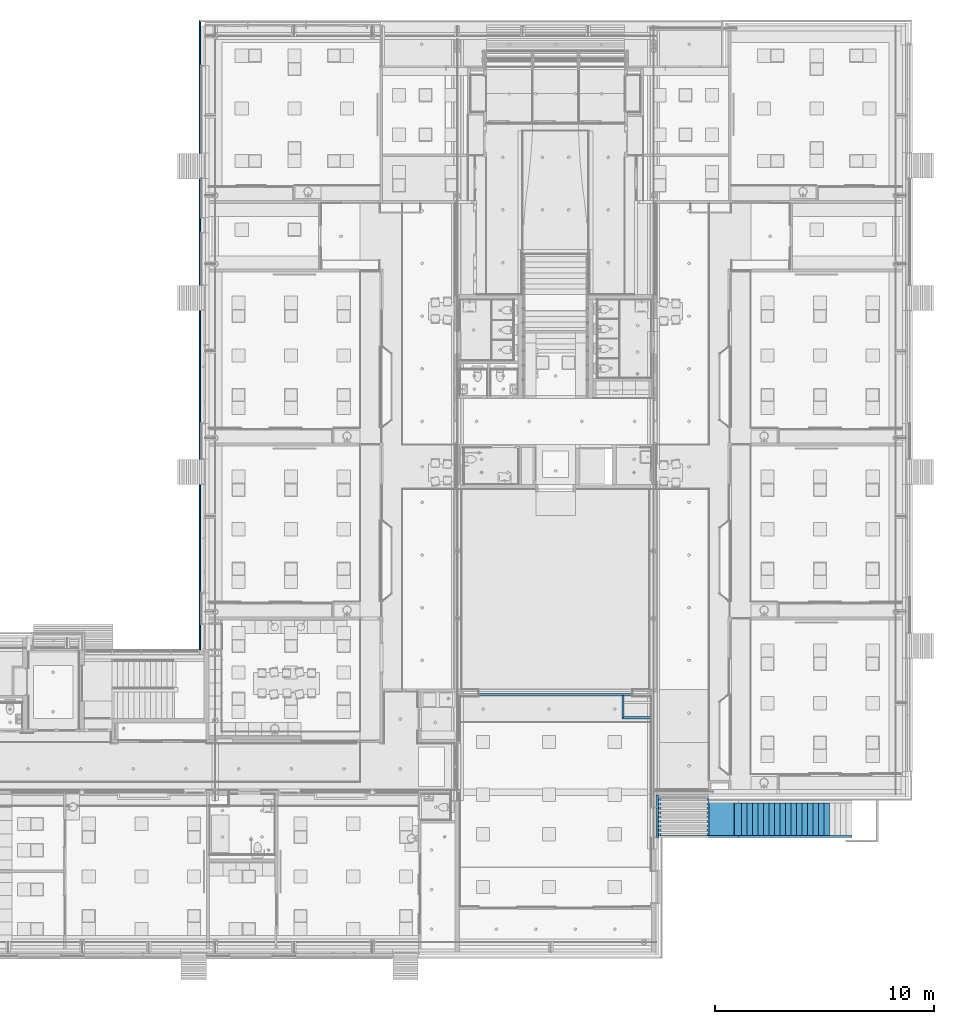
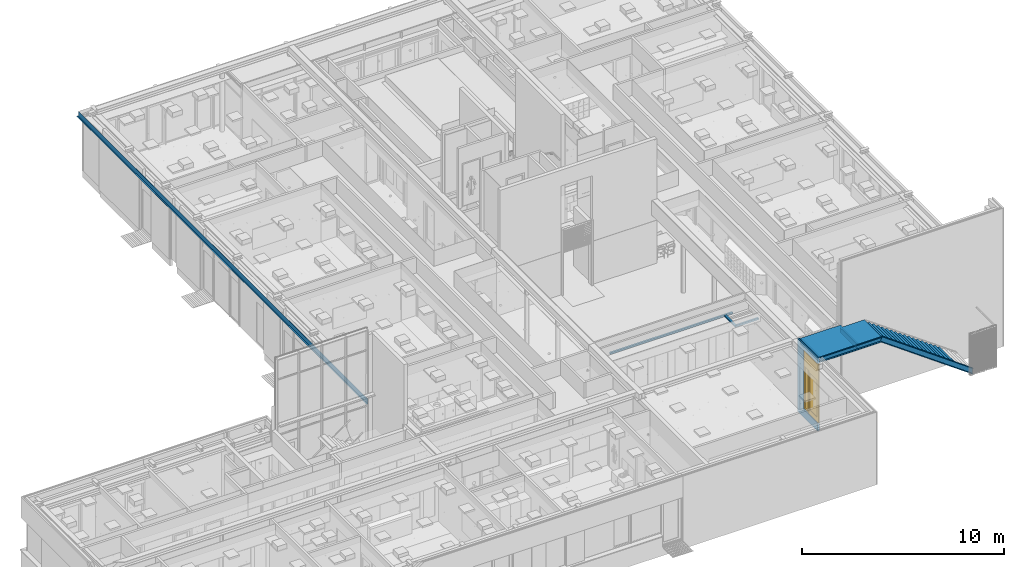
# One storey, part 28 of 347: 19 members, 8 beams, 1 door, 1 opening, 1 element without a shape of its own.
"""IFC2X3 building model written with IfcOpenShell, lengths in millimetres."""

from ifc_helpers import new_model, entity, si_unit, converted_unit, derived_unit, money_unit, direction, frame, origin_with_axes, place, context, subcontext, project, spatial, open_shell, faceted_brep, surface_model, material, type_object, element, fill, aggregate, save


model = new_model("IFC2X3")

# Units and contexts
model_context = context("Model", 3, precision=0.01, world=origin_with_axes(), true_north=direction((0.0, 1.0)))
plan_context = context("Plan", 3, precision=0.01, world=origin_with_axes(), true_north=direction((0.0, 1.0)))
body_context = subcontext(model_context, "Body", "Model", "MODEL_VIEW")
ifc_project = project(units=[si_unit("LENGTHUNIT", "METRE", prefix="MILLI"), si_unit("AREAUNIT", "SQUARE_METRE"), si_unit("VOLUMEUNIT", "CUBIC_METRE"), converted_unit("PLANEANGLEUNIT", "DEGREE", entity("IfcPlaneAngleMeasure", 0.0174532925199), si_unit("PLANEANGLEUNIT", "RADIAN"), dimensions=[0, 0, 0, 0, 0, 0, 0]), money_unit("EUR"), converted_unit("TIMEUNIT", "Year", entity("IfcTimeMeasure", 31556926.0), si_unit("TIMEUNIT", "SECOND"), dimensions=[0, 0, 1, 0, 0, 0, 0]), si_unit("MASSUNIT", "GRAM", prefix="KILO"), si_unit("THERMODYNAMICTEMPERATUREUNIT", "DEGREE_CELSIUS"), si_unit("LUMINOUSINTENSITYUNIT", "LUMEN"), si_unit("ENERGYUNIT", "JOULE", prefix="MEGA"), derived_unit("THERMALCONDUCTANCEUNIT", [(si_unit("POWERUNIT", "WATT"), 1), (si_unit("LENGTHUNIT", "METRE"), -1), (si_unit("THERMODYNAMICTEMPERATUREUNIT", "KELVIN"), -1)]), derived_unit("SPECIFICHEATCAPACITYUNIT", [(si_unit("ENERGYUNIT", "JOULE"), 1), (si_unit("MASSUNIT", "GRAM", prefix="KILO"), -1), (si_unit("THERMODYNAMICTEMPERATUREUNIT", "KELVIN"), -1)]), derived_unit("MASSDENSITYUNIT", [(si_unit("MASSUNIT", "GRAM", prefix="KILO"), 1), (si_unit("VOLUMEUNIT", "CUBIC_METRE"), -1)])], contexts=[model_context, plan_context])

# Site, building, storey
site_placement = place(None, origin_with_axes())
site = spatial("IfcSite", under=ifc_project, at=site_placement, Name="Site", CompositionType="ELEMENT")
building_placement = place(site_placement, origin_with_axes())
building = spatial("IfcBuilding", under=site, at=building_placement, Name="Naam gebouw", CompositionType="ELEMENT")
storey_placement = place(building_placement, origin_with_axes())
storey = spatial("IfcBuildingStorey", under=building, at=storey_placement, Name="begane grond", CompositionType="ELEMENT", Elevation=0.0)

# Beams
ifc_material_1 = material(Name="ALG - CONSTRUCTIEF")
beam_type_1 = type_object("IfcBeamType", Name="ALG - CONSTRUCTIEF 100 x 100", PredefinedType="BEAM")
beam_1_placement = place(storey_placement, frame((43145.0, 15525.0, 3100.0), z_axis=(0.0, 0.0, 1.0), x_axis=(0.0, -1.0, 0.0)))
element("IfcBeam", 1, at=beam_1_placement, inside=storey, type_object=beam_type_1, material=ifc_material_1, Name="28_Balk-x", ObjectType="BEAM", context=body_context, shape_type="Brep", body=[
    faceted_brep([(-50.0, 50.0, -100.0), (-50.0, 1300.0, -100.0), (50.0, 1300.0, -100.0), (50.0, -50.0, -100.0), (-50.0, 50.0, 0.0), (-50.0, 1300.0, 0.0), (50.0, 1300.0, 0.0), (50.0, -50.0, 0.0)], [[[0, 1, 2, 3]], [[4, 5, 1, 0]], [[2, 1, 5, 6]], [[3, 2, 6, 7]], [[4, 0, 3, 7]], [[7, 6, 5, 4]]]),
])
beam_2_placement = place(storey_placement, frame((43145.0, 15525.0, 3100.0), z_axis=(0.0, 0.0, 1.0), x_axis=(1.0, 0.0, 0.0)))
element("IfcBeam", 2, at=beam_2_placement, inside=storey, type_object=beam_type_1, material=ifc_material_1, Name="28_Balk-x", ObjectType="BEAM", context=body_context, shape_type="Brep", body=[
    faceted_brep([(50.0, 50.0, -100.0), (50.0, 1012.5, -100.0), (50.0, 1012.5, 0.0), (50.0, 50.0, 0.0), (-50.0, -50.0, -100.0), (-50.0, 1012.5, -100.0), (-50.0, 1012.5, 0.0), (-50.0, -50.0, 0.0)], [[[0, 1, 2, 3]], [[4, 5, 1, 0]], [[5, 6, 2, 1]], [[3, 2, 6, 7]], [[0, 3, 7, 4]], [[7, 6, 5, 4]]]),
])
beam_3_placement = place(storey_placement, frame((43575.0, 16587.5, 3100.0), z_axis=(0.0, 0.0, 1.0), x_axis=(0.0, 1.0, 0.0)))
element("IfcBeam", 3, at=beam_3_placement, inside=storey, type_object=beam_type_1, material=ifc_material_1, Name="28_Balk-x", ObjectType="BEAM", context=body_context, shape_type="Brep", body=[
    faceted_brep([(-50.0, 0.0, -100.0), (-50.0, 7000.0, -100.0), (50.0, 7000.0, -100.0), (50.0, 0.0, -100.0), (-50.0, 0.0, 0.0), (-50.0, 7000.0, 0.0), (50.0, 7000.0, 0.0), (50.0, 0.0, 0.0)], [[[0, 1, 2, 3]], [[4, 5, 1, 0]], [[2, 1, 5, 6]], [[3, 2, 6, 7]], [[4, 0, 3, 7]], [[7, 6, 5, 4]]]),
])
ifc_material_2 = material(Name="Metaal - Staal C beige")
beam_type_2 = type_object("IfcBeamType", Name="21 geveldrager (3200+) 75 x 300", PredefinedType="LINTEL")
beam_4_placement = place(storey_placement, frame((24275.0, 46887.0, 0.0), z_axis=(0.0, 0.0, 1.0), x_axis=(-1.0, 0.0, 0.0)))
element("IfcBeam", 4, at=beam_4_placement, inside=storey, type_object=beam_type_2, material=ifc_material_2, Name="21_21 geveldrager", ObjectType="LINTEL", context=body_context, shape_type="Brep", body=[
    faceted_brep([(430.000000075, -430.000000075, 3204.99999881), (430.000000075, 28292.0, 3204.99999881), (360.0, 28292.0, 3204.99999881), (360.0, -360.0, 3204.99999881), (430.000000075, -430.000000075, 3200.0), (430.000000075, 28292.0, 3200.0), (354.999996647, 28292.0, 3200.0), (354.999996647, 28292.0, 3500.00000119), (360.0, 28292.0, 3500.00000119), (360.0, -360.0, 3500.00000119), (354.999996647, -354.999996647, 3500.00000119), (354.999996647, -354.999996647, 3200.0)], [[[0, 1, 2, 3]], [[4, 5, 1, 0]], [[2, 1, 5, 6, 7, 8]], [[3, 2, 8, 9]], [[4, 0, 3, 9, 10, 11]], [[11, 6, 5, 4]], [[10, 7, 6, 11]], [[9, 8, 7, 10]]]),
])

# Member, opening, door
ifc_material_3 = material(Name="31 pui/kozijn")
member_type_1 = type_object("IfcMemberType", Name="31 pui/kozijn 112", PredefinedType="MEMBER")
member_1_placement = place(storey_placement, frame((44654.9999635, 12000.0000337, -510.000001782), z_axis=(0.0, 0.0, 1.0), x_axis=(4.05061524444e-07, -1.0, 0.0)))
member_1 = element("IfcMember", 5, at=member_1_placement, inside=storey, type_object=member_type_1, material=ifc_material_3, Name="21_31 buitenkozijn pui", ObjectType="MEMBER", context=body_context, shape_type="Brep", body=[
    faceted_brep([(942.000033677, 112.0, 470.000001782), (1950.00003368, 112.0, 470.000001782), (1950.00003368, 112.0, 0.0), (4.53668906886e-05, 112.0, 0.0), (4.53668906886e-05, 112.0, 4400.00000178), (1950.00003368, 112.0, 4400.00000178), (1950.00003368, 112.0, 4060.00000178), (550.000033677, 112.0, 4060.00000178), (550.000033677, 112.0, 487.000001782), (942.000033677, 112.0, 487.000001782), (942.000033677, 0.0, 470.000001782), (1950.00003368, 0.0, 470.000001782), (1950.00003368, 0.0, 0.0), (0.0, 0.0, 0.0), (0.0, 0.0, 4400.00000178), (1950.00003368, 0.0, 4400.00000178), (1950.00003368, 0.0, 4060.00000178), (550.000033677, 0.0, 4060.00000178), (550.000033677, 0.0, 487.000001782), (942.000033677, 0.0, 487.000001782)], [[[0, 1, 2, 3, 4, 5, 6, 7, 8, 9]], [[1, 0, 10, 11]], [[1, 11, 12, 2]], [[2, 12, 13, 3]], [[3, 13, 14, 4]], [[15, 5, 4, 14]], [[16, 6, 5, 15]], [[7, 6, 16, 17]], [[8, 7, 17, 18]], [[9, 8, 18, 19]], [[0, 9, 19, 10]], [[17, 16, 15, 14, 13, 12, 11, 10, 19, 18]]]),
])
opening_placement = place(member_1_placement, frame((1250.00003368, 0.0, 470.000001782), z_axis=(0.0, 0.0, 1.0), x_axis=(1.0, 0.0, 0.0)))
opening = element("IfcOpeningElement", 6, at=opening_placement, cuts=member_1, Name="32_merk-AT", context=body_context, shape_type="Brep", body=[
    faceted_brep([(-700.0, -112.0, 16.9999783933), (-700.0, -112.0, 3590.0), (-700.0, 234.0, 3590.0), (-700.0, 234.0, 16.9999783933), (-307.99997586, -112.0, 16.9999783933), (-307.99997586, -112.0, 0.0), (700.000017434, -112.0, 0.0), (700.000017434, -112.0, 3590.0), (700.000017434, 234.0, 3590.0), (700.000017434, 234.0, 0.0), (-307.99997586, 234.0, 0.0), (-307.99997586, 234.0, 16.9999783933)], [[[0, 1, 2, 3]], [[0, 4, 5, 6, 7, 1]], [[1, 7, 8, 2]], [[3, 2, 8, 9, 10, 11]], [[4, 0, 3, 11]], [[5, 4, 11, 10]], [[6, 5, 10, 9]], [[7, 6, 9, 8]]]),
])
door_style = type_object("IfcDoorStyle", Name="D1 bl zl1-b 25", ConstructionType="NOTDEFINED", OperationType="SINGLE_SWING_RIGHT", ParameterTakesPrecedence=False, Sizeable=False)
door_placement = place(opening_placement, frame((-700.0, 0.0, 0.0), z_axis=(0.0, 0.0, 1.0), x_axis=(1.0, 0.0, 0.0)))
door = element("IfcDoor", 7, at=door_placement, inside=storey, type_object=door_style, Name="32_merk-AT", ObjectType="DOOR", OverallHeight=3590.0, OverallWidth=1400.0, context=body_context, shape_type="SurfaceModel", body=[
    faceted_brep([(431.0, 60.0, 48.0), (446.0, 60.0, 48.0), (446.0, 50.0, 48.0), (1346.0, 50.0, 48.0), (1346.0, 60.0, 48.0), (1361.0, 60.0, 48.0), (1361.0, 122.0, 48.0), (431.0, 122.0, 48.0), (431.0, 60.0, 0.0), (446.0, 60.0, 0.0), (446.0, 50.0, 0.0), (1346.0, 50.0, 0.0), (1346.0, 60.0, 0.0), (1361.0, 60.0, 0.0), (1361.0, 122.0, 0.0), (431.0, 122.0, 0.0)], [[[0, 1, 2, 3, 4, 5, 6, 7]], [[1, 0, 8, 9]], [[10, 2, 1, 9]], [[2, 10, 11, 3]], [[3, 11, 12, 4]], [[5, 4, 12, 13]], [[13, 14, 6, 5]], [[15, 7, 6, 14]], [[8, 0, 7, 15]], [[9, 8, 15, 14, 13, 12, 11, 10]]]),
    faceted_brep([(0.0, 122.0, 17.0), (54.0, 122.0, 17.0), (54.0, 50.0, 17.0), (0.0, 50.0, 17.0), (0.0, 122.0, 3536.0), (54.0, 122.0, 3536.0), (54.0, 122.0, 2640.0), (54.0, 122.0, 2586.0), (54.0, 122.0, 71.0), (54.0, 50.0, 71.0), (54.0, 50.0, 2586.0), (54.0, 50.0, 2640.0), (54.0, 50.0, 3536.0), (0.0, 50.0, 3536.0)], [[[0, 1, 2, 3]], [[0, 4, 5, 6, 7, 8, 1]], [[1, 8, 9, 2]], [[3, 2, 9, 10, 11, 12, 13]], [[4, 0, 3, 13]], [[5, 4, 13, 12]], [[6, 5, 12, 11]], [[7, 6, 11, 10]], [[8, 7, 10, 9]]]),
    faceted_brep([(446.0, 60.0, 0.0), (446.0, 60.0, 2586.0), (446.0, 50.0, 2586.0), (446.0, 50.0, 0.0), (431.0, 60.0, 2586.0), (431.0, 60.0, 0.0), (431.0, 122.0, 2586.0), (392.0, 122.0, 2586.0), (392.0, 50.0, 2586.0), (392.0, 50.0, 0.0), (392.0, 50.0, 71.0), (392.0, 50.0, 17.0), (392.0, 122.0, 0.0), (431.0, 122.0, 0.0), (392.0, 122.0, 17.0), (392.0, 122.0, 71.0)], [[[0, 1, 2, 3]], [[4, 1, 0, 5]], [[4, 6, 7, 8, 2, 1]], [[9, 3, 2, 8, 10, 11]], [[5, 0, 3, 9, 12, 13]], [[6, 4, 5, 13]], [[6, 13, 12, 14, 15, 7]], [[15, 10, 8, 7]], [[14, 11, 10, 15]], [[12, 9, 11, 14]]]),
    faceted_brep([(54.0, 122.0, 71.0), (54.0, 122.0, 17.0), (54.0, 50.0, 17.0), (54.0, 50.0, 71.0), (392.0, 122.0, 71.0), (392.0, 122.0, 17.0), (392.0, 50.0, 17.0), (392.0, 50.0, 71.0)], [[[0, 1, 2, 3]], [[0, 4, 5, 1]], [[1, 5, 6, 2]], [[3, 2, 6, 7]], [[4, 0, 3, 7]], [[5, 4, 7, 6]]]),
    faceted_brep([(1361.0, 122.0, 2601.0), (1346.0, 122.0, 2601.0), (1346.0, 122.0, 2640.0), (1346.0, 122.0, 3536.0), (1400.0, 122.0, 3536.0), (1400.0, 122.0, 0.0), (1361.0, 122.0, 0.0), (1361.0, 60.0, 2601.0), (1346.0, 60.0, 2601.0), (1346.0, 60.0, 0.0), (1346.0, 50.0, 0.0), (1346.0, 50.0, 2586.0), (1346.0, 50.0, 2640.0), (1346.0, 50.0, 3536.0), (1400.0, 50.0, 3536.0), (1400.0, 50.0, 0.0), (1361.0, 60.0, 0.0)], [[[0, 1, 2, 3, 4, 5, 6]], [[1, 0, 7, 8]], [[8, 9, 10, 11, 12, 2, 1]], [[2, 12, 13, 3]], [[3, 13, 14, 4]], [[4, 14, 15, 5]], [[16, 6, 5, 15, 10, 9]], [[0, 6, 16, 7]], [[16, 9, 8, 7]], [[12, 11, 10, 15, 14, 13]]]),
    faceted_brep([(0.0, 122.0, 3590.0), (0.0, 122.0, 3536.0), (0.0, 50.0, 3536.0), (0.0, 50.0, 3590.0), (1400.0, 122.0, 3590.0), (1400.0, 122.0, 3536.0), (1346.0, 122.0, 3536.0), (54.0, 122.0, 3536.0), (54.0, 50.0, 3536.0), (1346.0, 50.0, 3536.0), (1400.0, 50.0, 3536.0), (1400.0, 50.0, 3590.0)], [[[0, 1, 2, 3]], [[0, 4, 5, 6, 7, 1]], [[1, 7, 8, 2]], [[3, 2, 8, 9, 10, 11]], [[4, 0, 3, 11]], [[5, 4, 11, 10]], [[6, 5, 10, 9]], [[7, 6, 9, 8]]]),
    faceted_brep([(1346.0, 60.0, 2601.0), (1346.0, 122.0, 2601.0), (1346.0, 122.0, 2640.0), (1346.0, 50.0, 2640.0), (1346.0, 50.0, 2586.0), (1346.0, 60.0, 2586.0), (431.0, 60.0, 2601.0), (431.0, 122.0, 2601.0), (431.0, 122.0, 2586.0), (392.0, 122.0, 2586.0), (54.0, 122.0, 2586.0), (54.0, 122.0, 2640.0), (54.0, 50.0, 2640.0), (446.0, 50.0, 2586.0), (54.0, 50.0, 2586.0), (392.0, 50.0, 2586.0), (446.0, 60.0, 2586.0), (431.0, 60.0, 2586.0)], [[[0, 1, 2, 3, 4, 5]], [[1, 0, 6, 7]], [[7, 8, 9, 10, 11, 2, 1]], [[11, 12, 3, 2]], [[13, 4, 3, 12, 14, 15]], [[16, 5, 4, 13]], [[0, 5, 16, 17, 6]], [[8, 7, 6, 17]], [[17, 16, 13, 15, 9, 8]], [[9, 15, 14, 10]], [[10, 14, 12, 11]]]),
    faceted_brep([(1361.0, 122.0, 248.0), (1361.0, 60.0, 248.0), (1261.0, 60.0, 248.0), (1261.0, 122.0, 248.0), (1361.0, 122.0, 2501.0), (1361.0, 60.0, 2501.0), (1261.0, 60.0, 2501.0), (1261.0, 122.0, 2501.0)], [[[0, 1, 2, 3]], [[4, 5, 1, 0]], [[1, 5, 6, 2]], [[3, 2, 6, 7]], [[0, 3, 7, 4]], [[7, 6, 5, 4]]]),
    faceted_brep([(431.0, 122.0, 248.0), (431.0, 60.0, 248.0), (431.0, 60.0, 2501.0), (431.0, 122.0, 2501.0), (531.0, 122.0, 248.0), (531.0, 60.0, 248.0), (531.0, 60.0, 2501.0), (531.0, 122.0, 2501.0)], [[[0, 1, 2, 3]], [[4, 5, 1, 0]], [[1, 5, 6, 2]], [[3, 2, 6, 7]], [[0, 3, 7, 4]], [[7, 6, 5, 4]]]),
    faceted_brep([(1361.0, 122.0, 48.0), (1361.0, 60.0, 48.0), (431.0, 60.0, 48.0), (431.0, 122.0, 48.0), (1361.0, 122.0, 248.0), (1361.0, 60.0, 248.0), (1261.0, 60.0, 248.0), (531.0, 60.0, 248.0), (431.0, 60.0, 248.0), (431.0, 122.0, 248.0), (531.0, 122.0, 248.0), (1261.0, 122.0, 248.0)], [[[0, 1, 2, 3]], [[4, 5, 1, 0]], [[1, 5, 6, 7, 8, 2]], [[3, 2, 8, 9]], [[0, 3, 9, 10, 11, 4]], [[11, 6, 5, 4]], [[10, 7, 6, 11]], [[9, 8, 7, 10]]]),
    faceted_brep([(1361.0, 122.0, 2601.0), (1361.0, 60.0, 2601.0), (1361.0, 60.0, 2501.0), (1361.0, 122.0, 2501.0), (431.0, 122.0, 2601.0), (431.0, 60.0, 2601.0), (431.0, 60.0, 2501.0), (531.0, 60.0, 2501.0), (1261.0, 60.0, 2501.0), (1261.0, 122.0, 2501.0), (531.0, 122.0, 2501.0), (431.0, 122.0, 2501.0)], [[[0, 1, 2, 3]], [[4, 5, 1, 0]], [[1, 5, 6, 7, 8, 2]], [[3, 2, 8, 9]], [[0, 3, 9, 10, 11, 4]], [[11, 6, 5, 4]], [[10, 7, 6, 11]], [[9, 8, 7, 10]]]),
    surface_model("IfcShellBasedSurfaceModel", [(1261.0, 97.0, 248.0), (531.0, 97.0, 248.0), (531.0, 97.0, 2501.0), (1261.0, 97.0, 2501.0)], [open_shell([[[0, 1, 2, 3]]])]),
    surface_model("IfcShellBasedSurfaceModel", [(1261.0, 85.0, 248.0), (1261.0, 85.0, 2501.0), (531.0, 85.0, 2501.0), (531.0, 85.0, 248.0)], [open_shell([[[0, 1, 2, 3]]])]),
    faceted_brep([(54.0, 104.0, 2640.0), (1346.0, 104.0, 2640.0), (1346.0, 50.0, 2640.0), (54.0, 50.0, 2640.0), (54.0, 104.0, 3536.0), (1346.0, 104.0, 3536.0), (1346.0, 50.0, 3536.0), (54.0, 50.0, 3536.0)], [[[0, 1, 2, 3]], [[0, 4, 5, 1]], [[1, 5, 6, 2]], [[3, 2, 6, 7]], [[4, 0, 3, 7]], [[5, 4, 7, 6]]]),
    surface_model("IfcShellBasedSurfaceModel", [(54.0, 118.0, 71.0), (54.0, 118.0, 2586.0), (392.0, 118.0, 2586.0), (392.0, 118.0, 71.0)], [open_shell([[[0, 1, 2, 3]]])]),
    surface_model("IfcShellBasedSurfaceModel", [(54.0, 106.0, 71.0), (392.0, 106.0, 71.0), (392.0, 106.0, 2586.0), (54.0, 106.0, 2586.0)], [open_shell([[[0, 1, 2, 3]]])]),
])
fill(opening, door)

# Stair, members
stair_placement = place(storey_placement, frame((53554.999908, 11649.9999578, -50.0), z_axis=(0.0, 0.0, 1.0), x_axis=(1.0, 0.0, 0.0)))
stair = element("IfcStair", 8, at=stair_placement, inside=storey, Name="24_Trap-x", ShapeType="NOTDEFINED")
ifc_material_4 = material(Name="Metaal - Staal C wit")
member_type_2 = type_object("IfcMemberType", Name="IfcMember", PredefinedType="USERDEFINED")
member_2_placement = place(stair_placement, frame((-1000.0, -580.0, 900.0), z_axis=(0.0, 0.0, 1.0), x_axis=(0.0, 1.0, 0.0)))
member_2 = element("IfcMember", 9, at=member_2_placement, type_object=member_type_2, material=ifc_material_4, Name="44_Traptrede-x", context=body_context, shape_type="Brep", body=[
    faceted_brep([(-909.999957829, 338.230854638, -45.0), (-164.999978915, 338.230854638, -45.0), (580.0, 338.230854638, -45.0), (580.0, 0.0, -45.0), (-909.999957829, 0.0, -45.0), (-909.999957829, 326.173140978, 0.0), (-164.999978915, 326.173140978, 0.0), (580.0, 326.173140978, 0.0), (580.0, 0.0, 0.0), (-909.999957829, 0.0, 0.0)], [[[0, 1, 2, 3, 4]], [[1, 0, 5, 6, 7, 2]], [[7, 8, 3, 2]], [[8, 9, 4, 3]], [[5, 0, 4, 9]], [[6, 5, 9, 8, 7]]]),
])
member_3_placement = place(stair_placement, frame((-1250.0, -580.0, 1080.0), z_axis=(0.0, 0.0, 1.0), x_axis=(0.0, 1.0, 0.0)))
member_3 = element("IfcMember", 10, at=member_3_placement, type_object=member_type_2, material=ifc_material_4, Name="44_Traptrede-x", context=body_context, shape_type="Brep", body=[
    faceted_brep([(-909.999957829, 338.230854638, -45.0), (-164.999978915, 338.230854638, -45.0), (580.0, 338.230854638, -45.0), (580.0, 0.0, -45.0), (-909.999957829, 0.0, -45.0), (-909.999957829, 326.173140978, 0.0), (-164.999978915, 326.173140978, 0.0), (580.0, 326.173140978, 0.0), (580.0, 0.0, 0.0), (-909.999957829, 0.0, 0.0)], [[[0, 1, 2, 3, 4]], [[1, 0, 5, 6, 7, 2]], [[7, 8, 3, 2]], [[8, 9, 4, 3]], [[5, 0, 4, 9]], [[6, 5, 9, 8, 7]]]),
])
member_4_placement = place(stair_placement, frame((-1500.0, -580.0, 1260.0), z_axis=(0.0, 0.0, 1.0), x_axis=(0.0, 1.0, 0.0)))
member_4 = element("IfcMember", 11, at=member_4_placement, type_object=member_type_2, material=ifc_material_4, Name="44_Traptrede-x", context=body_context, shape_type="Brep", body=[
    faceted_brep([(-909.999957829, 338.230854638, -45.0), (-164.999978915, 338.230854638, -45.0), (580.0, 338.230854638, -45.0), (580.0, 0.0, -45.0), (-909.999957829, 0.0, -45.0), (-909.999957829, 326.173140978, 0.0), (-164.999978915, 326.173140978, 0.0), (580.0, 326.173140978, 0.0), (580.0, 0.0, 0.0), (-909.999957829, 0.0, 0.0)], [[[0, 1, 2, 3, 4]], [[1, 0, 5, 6, 7, 2]], [[7, 8, 3, 2]], [[8, 9, 4, 3]], [[5, 0, 4, 9]], [[6, 5, 9, 8, 7]]]),
])
member_5_placement = place(stair_placement, frame((-1750.0, -580.0, 1440.0), z_axis=(0.0, 0.0, 1.0), x_axis=(0.0, 1.0, 0.0)))
member_5 = element("IfcMember", 12, at=member_5_placement, type_object=member_type_2, material=ifc_material_4, Name="44_Traptrede-x", context=body_context, shape_type="Brep", body=[
    faceted_brep([(-909.999957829, 338.230854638, -45.0), (-164.999978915, 338.230854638, -45.0), (580.0, 338.230854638, -45.0), (580.0, 0.0, -45.0), (-909.999957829, 0.0, -45.0), (-909.999957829, 326.173140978, 0.0), (-164.999978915, 326.173140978, 0.0), (580.0, 326.173140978, 0.0), (580.0, 0.0, 0.0), (-909.999957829, 0.0, 0.0)], [[[0, 1, 2, 3, 4]], [[1, 0, 5, 6, 7, 2]], [[7, 8, 3, 2]], [[8, 9, 4, 3]], [[5, 0, 4, 9]], [[6, 5, 9, 8, 7]]]),
])
member_6_placement = place(stair_placement, frame((-2000.0, -580.0, 1620.0), z_axis=(0.0, 0.0, 1.0), x_axis=(0.0, 1.0, 0.0)))
member_6 = element("IfcMember", 13, at=member_6_placement, type_object=member_type_2, material=ifc_material_4, Name="44_Traptrede-x", context=body_context, shape_type="Brep", body=[
    faceted_brep([(-909.999957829, 338.230854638, -45.0), (-164.999978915, 338.230854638, -45.0), (580.0, 338.230854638, -45.0), (580.0, 0.0, -45.0), (-909.999957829, 0.0, -45.0), (-909.999957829, 326.173140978, 0.0), (-164.999978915, 326.173140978, 0.0), (580.0, 326.173140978, 0.0), (580.0, 0.0, 0.0), (-909.999957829, 0.0, 0.0)], [[[0, 1, 2, 3, 4]], [[1, 0, 5, 6, 7, 2]], [[7, 8, 3, 2]], [[8, 9, 4, 3]], [[5, 0, 4, 9]], [[6, 5, 9, 8, 7]]]),
])
member_7_placement = place(stair_placement, frame((-2250.0, -580.0, 1800.0), z_axis=(0.0, 0.0, 1.0), x_axis=(0.0, 1.0, 0.0)))
member_7 = element("IfcMember", 14, at=member_7_placement, type_object=member_type_2, material=ifc_material_4, Name="44_Traptrede-x", context=body_context, shape_type="Brep", body=[
    faceted_brep([(-909.999957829, 338.230854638, -45.0), (-164.999978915, 338.230854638, -45.0), (580.0, 338.230854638, -45.0), (580.0, 0.0, -45.0), (-909.999957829, 0.0, -45.0), (-909.999957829, 326.173140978, 0.0), (-164.999978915, 326.173140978, 0.0), (580.0, 326.173140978, 0.0), (580.0, 0.0, 0.0), (-909.999957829, 0.0, 0.0)], [[[0, 1, 2, 3, 4]], [[1, 0, 5, 6, 7, 2]], [[7, 8, 3, 2]], [[8, 9, 4, 3]], [[5, 0, 4, 9]], [[6, 5, 9, 8, 7]]]),
])
member_8_placement = place(stair_placement, frame((-2500.0, -580.0, 1980.0), z_axis=(0.0, 0.0, 1.0), x_axis=(0.0, 1.0, 0.0)))
member_8 = element("IfcMember", 15, at=member_8_placement, type_object=member_type_2, material=ifc_material_4, Name="44_Traptrede-x", context=body_context, shape_type="Brep", body=[
    faceted_brep([(-909.999957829, 338.230854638, -45.0), (-164.999978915, 338.230854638, -45.0), (580.0, 338.230854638, -45.0), (580.0, 0.0, -45.0), (-909.999957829, 0.0, -45.0), (-909.999957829, 326.173140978, 0.0), (-164.999978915, 326.173140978, 0.0), (580.0, 326.173140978, 0.0), (580.0, 0.0, 0.0), (-909.999957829, 0.0, 0.0)], [[[0, 1, 2, 3, 4]], [[1, 0, 5, 6, 7, 2]], [[7, 8, 3, 2]], [[8, 9, 4, 3]], [[5, 0, 4, 9]], [[6, 5, 9, 8, 7]]]),
])
member_9_placement = place(stair_placement, frame((-2750.0, -580.0, 2160.0), z_axis=(0.0, 0.0, 1.0), x_axis=(0.0, 1.0, 0.0)))
member_9 = element("IfcMember", 16, at=member_9_placement, type_object=member_type_2, material=ifc_material_4, Name="44_Traptrede-x", context=body_context, shape_type="Brep", body=[
    faceted_brep([(-909.999957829, 338.230854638, -45.0), (-164.999978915, 338.230854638, -45.0), (580.0, 338.230854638, -45.0), (580.0, 0.0, -45.0), (-909.999957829, 0.0, -45.0), (-909.999957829, 326.173140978, 0.0), (-164.999978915, 326.173140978, 0.0), (580.0, 326.173140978, 0.0), (580.0, 0.0, 0.0), (-909.999957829, 0.0, 0.0)], [[[0, 1, 2, 3, 4]], [[1, 0, 5, 6, 7, 2]], [[7, 8, 3, 2]], [[8, 9, 4, 3]], [[5, 0, 4, 9]], [[6, 5, 9, 8, 7]]]),
])
member_10_placement = place(stair_placement, frame((-3000.0, -580.0, 2340.0), z_axis=(0.0, 0.0, 1.0), x_axis=(0.0, 1.0, 0.0)))
member_10 = element("IfcMember", 17, at=member_10_placement, type_object=member_type_2, material=ifc_material_4, Name="44_Traptrede-x", context=body_context, shape_type="Brep", body=[
    faceted_brep([(-909.999957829, 338.230854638, -45.0), (-164.999978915, 338.230854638, -45.0), (580.0, 338.230854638, -45.0), (580.0, 0.0, -45.0), (-909.999957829, 0.0, -45.0), (-909.999957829, 326.173140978, 0.0), (-164.999978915, 326.173140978, 0.0), (580.0, 326.173140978, 0.0), (580.0, 0.0, 0.0), (-909.999957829, 0.0, 0.0)], [[[0, 1, 2, 3, 4]], [[1, 0, 5, 6, 7, 2]], [[7, 8, 3, 2]], [[8, 9, 4, 3]], [[5, 0, 4, 9]], [[6, 5, 9, 8, 7]]]),
])
member_11_placement = place(stair_placement, frame((-3250.0, -580.0, 2520.0), z_axis=(0.0, 0.0, 1.0), x_axis=(0.0, 1.0, 0.0)))
member_11 = element("IfcMember", 18, at=member_11_placement, type_object=member_type_2, material=ifc_material_4, Name="44_Traptrede-x", context=body_context, shape_type="Brep", body=[
    faceted_brep([(-909.999957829, 338.230854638, -45.0), (-164.999978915, 338.230854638, -45.0), (580.0, 338.230854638, -45.0), (580.0, 0.0, -45.0), (-909.999957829, 0.0, -45.0), (-909.999957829, 326.173140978, 0.0), (-164.999978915, 326.173140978, 0.0), (580.0, 326.173140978, 0.0), (580.0, 0.0, 0.0), (-909.999957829, 0.0, 0.0)], [[[0, 1, 2, 3, 4]], [[1, 0, 5, 6, 7, 2]], [[7, 8, 3, 2]], [[8, 9, 4, 3]], [[5, 0, 4, 9]], [[6, 5, 9, 8, 7]]]),
])
member_12_placement = place(stair_placement, frame((-3500.0, -580.0, 2700.0), z_axis=(0.0, 0.0, 1.0), x_axis=(0.0, 1.0, 0.0)))
member_12 = element("IfcMember", 19, at=member_12_placement, type_object=member_type_2, material=ifc_material_4, Name="44_Traptrede-x", context=body_context, shape_type="Brep", body=[
    faceted_brep([(-909.999957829, 338.230854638, -45.0), (-164.999978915, 338.230854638, -45.0), (580.0, 338.230854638, -45.0), (580.0, 0.0, -45.0), (-909.999957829, 0.0, -45.0), (-909.999957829, 326.173140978, 0.0), (-164.999978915, 326.173140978, 0.0), (580.0, 326.173140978, 0.0), (580.0, 0.0, 0.0), (-909.999957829, 0.0, 0.0)], [[[0, 1, 2, 3, 4]], [[1, 0, 5, 6, 7, 2]], [[7, 8, 3, 2]], [[8, 9, 4, 3]], [[5, 0, 4, 9]], [[6, 5, 9, 8, 7]]]),
])
member_13_placement = place(stair_placement, frame((-3750.0, -580.0, 2880.0), z_axis=(0.0, 0.0, 1.0), x_axis=(0.0, 1.0, 0.0)))
member_13 = element("IfcMember", 20, at=member_13_placement, type_object=member_type_2, material=ifc_material_4, Name="44_Traptrede-x", context=body_context, shape_type="Brep", body=[
    faceted_brep([(-909.999957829, 338.230854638, -45.0), (-164.999978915, 338.230854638, -45.0), (580.0, 338.230854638, -45.0), (580.0, 0.0, -45.0), (-909.999957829, 0.0, -45.0), (-909.999957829, 326.173140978, 0.0), (-164.999978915, 326.173140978, 0.0), (580.0, 326.173140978, 0.0), (580.0, 0.0, 0.0), (-909.999957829, 0.0, 0.0)], [[[0, 1, 2, 3, 4]], [[1, 0, 5, 6, 7, 2]], [[7, 8, 3, 2]], [[8, 9, 4, 3]], [[5, 0, 4, 9]], [[6, 5, 9, 8, 7]]]),
])
member_14_placement = place(stair_placement, frame((-4000.0, -580.0, 3060.0), z_axis=(0.0, 0.0, 1.0), x_axis=(0.0, 1.0, 0.0)))
member_14 = element("IfcMember", 21, at=member_14_placement, type_object=member_type_2, material=ifc_material_4, Name="44_Traptrede-x", context=body_context, shape_type="Brep", body=[
    faceted_brep([(-909.999957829, 338.230854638, -45.0), (-164.999978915, 338.230854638, -45.0), (580.0, 338.230854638, -45.0), (580.0, 0.0, -45.0), (-909.999957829, 0.0, -45.0), (-909.999957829, 326.173140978, 0.0), (-164.999978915, 326.173140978, 0.0), (580.0, 326.173140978, 0.0), (580.0, 0.0, 0.0), (-909.999957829, 0.0, 0.0)], [[[0, 1, 2, 3, 4]], [[1, 0, 5, 6, 7, 2]], [[7, 8, 3, 2]], [[8, 9, 4, 3]], [[5, 0, 4, 9]], [[6, 5, 9, 8, 7]]]),
])
member_15_placement = place(stair_placement, frame((-4250.0, -580.0, 3240.0), z_axis=(0.0, 0.0, 1.0), x_axis=(0.0, 1.0, 0.0)))
member_15 = element("IfcMember", 22, at=member_15_placement, type_object=member_type_2, material=ifc_material_4, Name="44_Traptrede-x", context=body_context, shape_type="Brep", body=[
    faceted_brep([(-909.999957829, 338.230854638, -45.0), (-164.999978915, 338.230854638, -45.0), (580.0, 338.230854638, -45.0), (580.0, 0.0, -45.0), (-909.999957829, 0.0, -45.0), (-909.999957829, 326.173140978, 0.0), (-164.999978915, 326.173140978, 0.0), (580.0, 326.173140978, 0.0), (580.0, 0.0, 0.0), (-909.999957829, 0.0, 0.0)], [[[0, 1, 2, 3, 4]], [[1, 0, 5, 6, 7, 2]], [[7, 8, 3, 2]], [[8, 9, 4, 3]], [[5, 0, 4, 9]], [[6, 5, 9, 8, 7]]]),
])
member_16_placement = place(stair_placement, frame((-4500.0, -580.0, 3420.0), z_axis=(0.0, 0.0, 1.0), x_axis=(0.0, 1.0, 0.0)))
member_16 = element("IfcMember", 23, at=member_16_placement, type_object=member_type_2, material=ifc_material_4, Name="44_Traptrede-x", context=body_context, shape_type="Brep", body=[
    faceted_brep([(-909.999957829, 338.230854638, -45.0), (-164.999978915, 338.230854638, -45.0), (580.0, 338.230854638, -45.0), (580.0, 0.0, -45.0), (-909.999957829, 0.0, -45.0), (-909.999957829, 326.173140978, 0.0), (-164.999978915, 326.173140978, 0.0), (580.0, 326.173140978, 0.0), (580.0, 0.0, 0.0), (-909.999957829, 0.0, 0.0)], [[[0, 1, 2, 3, 4]], [[1, 0, 5, 6, 7, 2]], [[7, 8, 3, 2]], [[8, 9, 4, 3]], [[5, 0, 4, 9]], [[6, 5, 9, 8, 7]]]),
])
member_17_placement = place(stair_placement, frame((-4750.0, -580.0, 3600.0), z_axis=(0.0, 0.0, 1.0), x_axis=(0.0, 1.0, 0.0)))
member_17 = element("IfcMember", 24, at=member_17_placement, type_object=member_type_2, material=ifc_material_4, Name="44_Traptrede-x", context=body_context, shape_type="Brep", body=[
    faceted_brep([(-909.999957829, 338.230854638, -45.0), (-164.999978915, 338.230854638, -45.0), (580.0, 338.230854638, -45.0), (580.0, 0.0, -45.0), (-909.999957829, 0.0, -45.0), (-909.999957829, 326.173140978, 0.0), (-164.999978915, 326.173140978, 0.0), (580.0, 326.173140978, 0.0), (580.0, 0.0, 0.0), (-909.999957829, 0.0, 0.0)], [[[0, 1, 2, 3, 4]], [[1, 0, 5, 6, 7, 2]], [[7, 8, 3, 2]], [[8, 9, 4, 3]], [[5, 0, 4, 9]], [[6, 5, 9, 8, 7]]]),
])
member_18_placement = place(stair_placement, frame((-5000.0, -580.0, 3780.0), z_axis=(0.0, 0.0, 1.0), x_axis=(0.0, 1.0, 0.0)))
member_18 = element("IfcMember", 25, at=member_18_placement, type_object=member_type_2, material=ifc_material_4, Name="44_Traptrede-x", context=body_context, shape_type="Brep", body=[
    faceted_brep([(-909.999957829, 338.230854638, -45.0), (-164.999978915, 338.230854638, -45.0), (580.0, 338.230854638, -45.0), (580.0, 0.0, -45.0), (-909.999957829, 0.0, -45.0), (-909.999957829, 326.173140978, 0.0), (-164.999978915, 326.173140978, 0.0), (580.0, 326.173140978, 0.0), (580.0, 0.0, 0.0), (-909.999957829, 0.0, 0.0)], [[[0, 1, 2, 3, 4]], [[1, 0, 5, 6, 7, 2]], [[7, 8, 3, 2]], [[8, 9, 4, 3]], [[5, 0, 4, 9]], [[6, 5, 9, 8, 7]]]),
])
member_19_placement = place(stair_placement, frame((-5250.0, -580.0, 3960.0), z_axis=(0.0, 0.0, 1.0), x_axis=(0.0, 1.0, 0.0)))
member_19 = element("IfcMember", 26, at=member_19_placement, type_object=member_type_2, material=ifc_material_4, Name="44_Traptrede-x", context=body_context, shape_type="Brep", body=[
    faceted_brep([(860.000088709, 3577.99919099, -45.0), (-1009.99995783, 3577.99919099, -45.0), (-1009.99995783, 3577.99919099, 0.0), (860.000088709, 3577.99919099, 0.0), (860.000088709, 1239.99989144, -45.0), (668.000024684, 1239.99989144, -45.0), (668.000024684, 0.0, -45.0), (-1009.99995783, 0.0, -45.0), (-1009.99995783, 0.0, 0.0), (668.000024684, 0.0, 0.0), (668.000024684, 1239.99989144, 0.0), (860.000088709, 1239.99989144, 0.0)], [[[0, 1, 2, 3]], [[0, 4, 5, 6, 7, 1]], [[1, 7, 8, 2]], [[3, 2, 8, 9, 10, 11]], [[4, 0, 3, 11]], [[5, 4, 11, 10]], [[6, 5, 10, 9]], [[7, 6, 9, 8]]]),
])
aggregate(stair, [member_2, member_3, member_4, member_5, member_6, member_7, member_8, member_9, member_10, member_11, member_12, member_13, member_14, member_15, member_16, member_17, member_18, member_19])

# Beams
ifc_material_5 = material(Name="Metaal - Staal C")
beam_type_3 = type_object("IfcBeamType", Name="UNP300 100 x 300", PredefinedType="BEAM")
beam_5_placement = place(storey_placement, frame((46965.0000101, 11930.0000337, 3860.0), z_axis=(0.0, 0.0, 1.0), x_axis=(-1.0, 0.0, 0.0)))
element("IfcBeam", 27, at=beam_5_placement, inside=storey, type_object=beam_type_3, material=ifc_material_5, Name="28_Balk-x", ObjectType="BEAM", context=body_context, shape_type="Brep", body=[
    faceted_brep([(0.0, 100.0, 0.0), (0.0, 1770.00003368, 0.0), (-100.0, 1770.00003368, 0.0), (-100.0, 0.0, 0.0), (0.0, 100.0, -300.0), (0.0, 1770.00003368, -300.0), (-10.0, 1770.00003368, -16.0), (-100.0, 1770.00003368, -16.0), (-100.0, 1770.00003368, -300.0), (-100.0, 1770.00003368, -284.0), (-10.0, 1770.00003368, -284.0), (-100.0, 0.0, -16.0), (-100.0, 0.0, -284.0), (-100.0, 0.0, -300.0), (-10.0, 90.0, -16.0), (-10.0, 90.0, -284.0)], [[[0, 1, 2, 3]], [[4, 5, 1, 0]], [[6, 7, 2, 1, 5, 8, 9, 10]], [[3, 2, 7, 11]], [[12, 13, 4, 0, 3, 11, 14, 15]], [[13, 8, 5, 4]], [[11, 7, 6, 14]], [[12, 9, 8, 13]], [[15, 10, 9, 12]], [[14, 6, 10, 15]]]),
])
beam_6_placement = place(storey_placement, frame((44775.0, 10160.0, 3860.0), z_axis=(0.0, 0.0, 1.0), x_axis=(0.0, -1.0, 0.0)))
element("IfcBeam", 28, at=beam_6_placement, inside=storey, type_object=beam_type_3, material=ifc_material_5, Name="28_Balk-x", ObjectType="BEAM", context=body_context, shape_type="Brep", body=[
    faceted_brep([(0.0, 100.0, -300.0), (0.0, 3536.90900753, -300.0), (100.0, 3536.90900753, -300.0), (100.0, 0.0, -300.0), (0.0, 100.0, 0.0), (0.0, 3633.67306756, 0.0), (100.0, 3633.67306756, 0.0), (100.0, 3628.51231769, -16.0), (10.0, 3628.51231769, -16.0), (10.0, 3542.0697574, -284.0), (100.0, 3542.0697574, -284.0), (100.0, 0.0, -284.0), (10.0, 90.0, -284.0), (10.0, 90.0, -16.0), (100.0, 0.0, -16.0), (100.0, 0.0, 0.0)], [[[0, 1, 2, 3]], [[4, 5, 1, 0]], [[2, 1, 5, 6, 7, 8, 9, 10]], [[3, 2, 10, 11]], [[4, 0, 3, 11, 12, 13, 14, 15]], [[15, 6, 5, 4]], [[14, 7, 6, 15]], [[13, 8, 7, 14]], [[12, 9, 8, 13]], [[11, 10, 9, 12]]]),
])
beam_7_placement = place(storey_placement, frame((48311.4508453, 10160.0, 3930.0), z_axis=(0.0, 0.0, 1.0), x_axis=(0.0, -1.0, 0.0)))
element("IfcBeam", 29, at=beam_7_placement, inside=storey, type_object=beam_type_3, material=ifc_material_5, Name="28_Balk-x", ObjectType="BEAM", context=body_context, shape_type="Brep", body=[
    faceted_brep([(0.0, 0.458162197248, -370.0), (0.0, 5263.54906267, -4159.42544834), (100.0, 5263.54906267, -4159.42544834), (100.0, 0.458162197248, -370.0), (0.0, 97.2222222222, -70.0), (0.0, 5263.54906267, -3789.75532512), (100.0, 5263.54906267, -3789.75532512), (100.0, 5263.54906267, -3809.47106502), (10.0, 5263.54906267, -3809.47106502), (10.0, 5263.54906267, -4139.70970843), (100.0, 5263.54906267, -4139.70970843), (100.0, 5.61891206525, -354.0), (10.0, 5.61891206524, -354.0), (10.0, 92.0614723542, -86.0), (100.0, 92.0614723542, -86.0), (100.0, 97.2222222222, -70.0)], [[[0, 1, 2, 3]], [[4, 5, 1, 0]], [[2, 1, 5, 6, 7, 8, 9, 10]], [[3, 2, 10, 11]], [[4, 0, 3, 11, 12, 13, 14, 15]], [[15, 6, 5, 4]], [[14, 7, 6, 15]], [[13, 8, 7, 14]], [[12, 9, 8, 13]], [[11, 10, 9, 12]]]),
])
beam_8_placement = place(storey_placement, frame((44775.0, 10160.0, 3859.99999506), z_axis=(0.0, 0.0, 1.0), x_axis=(1.0, 0.0, 0.0)))
element("IfcBeam", 30, at=beam_8_placement, inside=storey, type_object=beam_type_3, material=ifc_material_5, Name="28_Balk-x", ObjectType="BEAM", context=body_context, shape_type="Brep", body=[
    faceted_brep([(0.0, -100.0, -300.0), (0.0, 1770.00003368, -300.0), (100.0, 1670.00003368, -300.0), (100.0, 0.0, -300.0), (0.0, -100.0, 0.0), (0.0, 1770.00003368, 0.0), (100.0, 1670.00003368, 0.0), (100.0, 1670.00003368, -16.0), (10.0, 1760.00003368, -16.0), (10.0, 1760.00003368, -284.0), (100.0, 1670.00003368, -284.0), (100.0, 0.0, -284.0), (10.0, -90.0, -284.0), (10.0, -90.0, -16.0), (100.0, 0.0, -16.0), (100.0, 0.0, 0.0)], [[[0, 1, 2, 3]], [[4, 5, 1, 0]], [[2, 1, 5, 6, 7, 8, 9, 10]], [[3, 2, 10, 11]], [[4, 0, 3, 11, 12, 13, 14, 15]], [[15, 6, 5, 4]], [[14, 7, 6, 15]], [[13, 8, 7, 14]], [[12, 9, 8, 13]], [[11, 10, 9, 12]]]),
])

save(model, "model.ifc")
